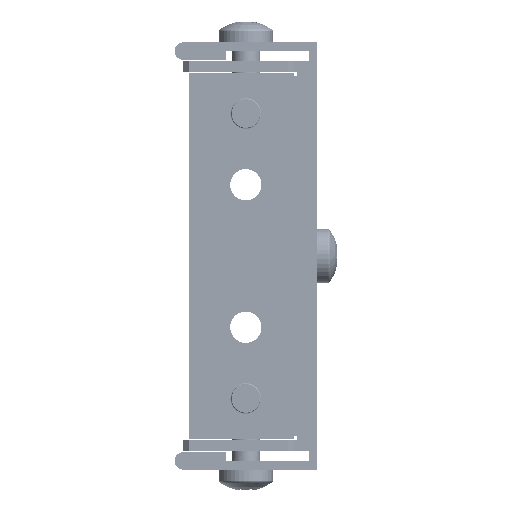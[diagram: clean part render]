
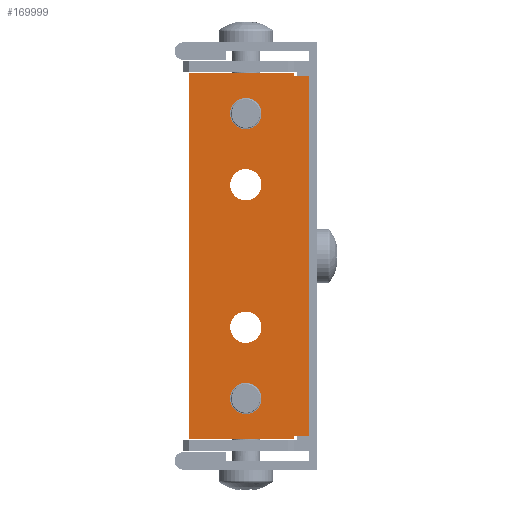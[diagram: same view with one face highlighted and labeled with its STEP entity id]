
A CAD part, front view. The second image highlights one B-rep face of the part: STEP entity #169999.
In plain terms, the highlighted planar face has unit normal (0, -1, 0).
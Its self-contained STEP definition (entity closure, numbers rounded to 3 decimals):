
#168963 = EDGE_CURVE('',#168964,#168966,#168968,.T.);
#168964 = VERTEX_POINT('',#168965);
#168965 = CARTESIAN_POINT('',(-354.1,-550.,-5.35));
#168966 = VERTEX_POINT('',#168967);
#168967 = CARTESIAN_POINT('',(-372.5,-550.,-5.35));
#168968 = LINE('',#168969,#168970);
#168969 = CARTESIAN_POINT('',(-354.1,-550.,-5.35));
#168970 = VECTOR('',#168971,1.);
#168971 = DIRECTION('',(-1.,0.,0.));
#169003 = EDGE_CURVE('',#169004,#169006,#169008,.T.);
#169004 = VERTEX_POINT('',#169005);
#169005 = CARTESIAN_POINT('',(-354.1,-550.,-69.15));
#169006 = VERTEX_POINT('',#169007);
#169007 = CARTESIAN_POINT('',(-354.1,-550.,-69.65));
#169008 = LINE('',#169009,#169010);
#169009 = CARTESIAN_POINT('',(-354.1,-550.,-69.15));
#169010 = VECTOR('',#169011,1.);
#169011 = DIRECTION('',(0.,0.,-1.));
#169043 = EDGE_CURVE('',#169006,#169044,#169046,.T.);
#169044 = VERTEX_POINT('',#169045);
#169045 = CARTESIAN_POINT('',(-372.5,-550.,-69.65));
#169046 = LINE('',#169047,#169048);
#169047 = CARTESIAN_POINT('',(-354.1,-550.,-69.65));
#169048 = VECTOR('',#169049,1.);
#169049 = DIRECTION('',(-1.,0.,0.));
#169081 = EDGE_CURVE('',#169044,#168966,#169082,.T.);
#169082 = LINE('',#169083,#169084);
#169083 = CARTESIAN_POINT('',(-372.5,-550.,-5.85));
#169084 = VECTOR('',#169085,1.);
#169085 = DIRECTION('',(0.,0.,1.));
#169097 = VERTEX_POINT('',#169098);
#169098 = CARTESIAN_POINT('',(-359.75,-550.,-12.5));
#169116 = VERTEX_POINT('',#169117);
#169117 = CARTESIAN_POINT('',(-365.25,-550.,-12.5));
#169123 = EDGE_CURVE('',#169116,#169097,#169124,.T.);
#169124 = CIRCLE('',#169125,2.75);
#169125 = AXIS2_PLACEMENT_3D('',#169126,#169127,#169128);
#169126 = CARTESIAN_POINT('',(-362.5,-550.,-12.5));
#169127 = DIRECTION('',(0.,1.,0.));
#169128 = DIRECTION('',(1.,0.,0.));
#169146 = EDGE_CURVE('',#169097,#169116,#169147,.T.);
#169147 = CIRCLE('',#169148,2.75);
#169148 = AXIS2_PLACEMENT_3D('',#169149,#169150,#169151);
#169149 = CARTESIAN_POINT('',(-362.5,-550.,-12.5));
#169150 = DIRECTION('',(0.,1.,0.));
#169151 = DIRECTION('',(1.,0.,0.));
#169163 = VERTEX_POINT('',#169164);
#169164 = CARTESIAN_POINT('',(-359.75,-550.,-50.));
#169182 = VERTEX_POINT('',#169183);
#169183 = CARTESIAN_POINT('',(-365.25,-550.,-50.));
#169189 = EDGE_CURVE('',#169182,#169163,#169190,.T.);
#169190 = CIRCLE('',#169191,2.75);
#169191 = AXIS2_PLACEMENT_3D('',#169192,#169193,#169194);
#169192 = CARTESIAN_POINT('',(-362.5,-550.,-50.));
#169193 = DIRECTION('',(0.,1.,0.));
#169194 = DIRECTION('',(-1.,0.,0.));
#169212 = EDGE_CURVE('',#169163,#169182,#169213,.T.);
#169213 = CIRCLE('',#169214,2.75);
#169214 = AXIS2_PLACEMENT_3D('',#169215,#169216,#169217);
#169215 = CARTESIAN_POINT('',(-362.5,-550.,-50.));
#169216 = DIRECTION('',(0.,1.,0.));
#169217 = DIRECTION('',(-1.,0.,0.));
#169229 = VERTEX_POINT('',#169230);
#169230 = CARTESIAN_POINT('',(-359.75,-550.,-62.5));
#169248 = VERTEX_POINT('',#169249);
#169249 = CARTESIAN_POINT('',(-365.25,-550.,-62.5));
#169255 = EDGE_CURVE('',#169248,#169229,#169256,.T.);
#169256 = CIRCLE('',#169257,2.75);
#169257 = AXIS2_PLACEMENT_3D('',#169258,#169259,#169260);
#169258 = CARTESIAN_POINT('',(-362.5,-550.,-62.5));
#169259 = DIRECTION('',(0.,1.,0.));
#169260 = DIRECTION('',(-1.,0.,0.));
#169278 = EDGE_CURVE('',#169229,#169248,#169279,.T.);
#169279 = CIRCLE('',#169280,2.75);
#169280 = AXIS2_PLACEMENT_3D('',#169281,#169282,#169283);
#169281 = CARTESIAN_POINT('',(-362.5,-550.,-62.5));
#169282 = DIRECTION('',(0.,1.,0.));
#169283 = DIRECTION('',(-1.,0.,0.));
#169295 = VERTEX_POINT('',#169296);
#169296 = CARTESIAN_POINT('',(-359.75,-550.,-25.));
#169314 = VERTEX_POINT('',#169315);
#169315 = CARTESIAN_POINT('',(-365.25,-550.,-25.));
#169321 = EDGE_CURVE('',#169314,#169295,#169322,.T.);
#169322 = CIRCLE('',#169323,2.75);
#169323 = AXIS2_PLACEMENT_3D('',#169324,#169325,#169326);
#169324 = CARTESIAN_POINT('',(-362.5,-550.,-25.));
#169325 = DIRECTION('',(0.,1.,0.));
#169326 = DIRECTION('',(1.,0.,0.));
#169344 = EDGE_CURVE('',#169295,#169314,#169345,.T.);
#169345 = CIRCLE('',#169346,2.75);
#169346 = AXIS2_PLACEMENT_3D('',#169347,#169348,#169349);
#169347 = CARTESIAN_POINT('',(-362.5,-550.,-25.));
#169348 = DIRECTION('',(0.,1.,0.));
#169349 = DIRECTION('',(1.,0.,0.));
#169360 = EDGE_CURVE('',#169361,#168964,#169363,.T.);
#169361 = VERTEX_POINT('',#169362);
#169362 = CARTESIAN_POINT('',(-354.1,-550.,-5.85));
#169363 = LINE('',#169364,#169365);
#169364 = CARTESIAN_POINT('',(-354.1,-550.,-5.85));
#169365 = VECTOR('',#169366,1.);
#169366 = DIRECTION('',(0.,0.,1.));
#169982 = VERTEX_POINT('',#169983);
#169983 = CARTESIAN_POINT('',(-351.5,-550.,-69.15));
#169989 = EDGE_CURVE('',#169004,#169982,#169990,.T.);
#169990 = LINE('',#169991,#169992);
#169991 = CARTESIAN_POINT('',(-351.5,-550.,-69.15));
#169992 = VECTOR('',#169993,1.);
#169993 = DIRECTION('',(1.,0.,0.));
#169999 = ADVANCED_FACE('',(#170000,#170004,#170008,#170012,#170016),
  #170038,.T.);
#170000 = FACE_BOUND('',#170001,.T.);
#170001 = EDGE_LOOP('',(#170002,#170003));
#170002 = ORIENTED_EDGE('',*,*,#169344,.T.);
#170003 = ORIENTED_EDGE('',*,*,#169321,.T.);
#170004 = FACE_BOUND('',#170005,.T.);
#170005 = EDGE_LOOP('',(#170006,#170007));
#170006 = ORIENTED_EDGE('',*,*,#169278,.T.);
#170007 = ORIENTED_EDGE('',*,*,#169255,.T.);
#170008 = FACE_BOUND('',#170009,.T.);
#170009 = EDGE_LOOP('',(#170010,#170011));
#170010 = ORIENTED_EDGE('',*,*,#169212,.T.);
#170011 = ORIENTED_EDGE('',*,*,#169189,.T.);
#170012 = FACE_BOUND('',#170013,.T.);
#170013 = EDGE_LOOP('',(#170014,#170015));
#170014 = ORIENTED_EDGE('',*,*,#169146,.T.);
#170015 = ORIENTED_EDGE('',*,*,#169123,.T.);
#170016 = FACE_BOUND('',#170017,.T.);
#170017 = EDGE_LOOP('',(#170018,#170019,#170020,#170021,#170022,#170030,
    #170036,#170037));
#170018 = ORIENTED_EDGE('',*,*,#169081,.F.);
#170019 = ORIENTED_EDGE('',*,*,#169043,.F.);
#170020 = ORIENTED_EDGE('',*,*,#169003,.F.);
#170021 = ORIENTED_EDGE('',*,*,#169989,.T.);
#170022 = ORIENTED_EDGE('',*,*,#170023,.T.);
#170023 = EDGE_CURVE('',#169982,#170024,#170026,.T.);
#170024 = VERTEX_POINT('',#170025);
#170025 = CARTESIAN_POINT('',(-351.5,-550.,-5.85));
#170026 = LINE('',#170027,#170028);
#170027 = CARTESIAN_POINT('',(-351.5,-550.,-37.5));
#170028 = VECTOR('',#170029,1.);
#170029 = DIRECTION('',(0.,0.,1.));
#170030 = ORIENTED_EDGE('',*,*,#170031,.F.);
#170031 = EDGE_CURVE('',#169361,#170024,#170032,.T.);
#170032 = LINE('',#170033,#170034);
#170033 = CARTESIAN_POINT('',(-351.5,-550.,-5.85));
#170034 = VECTOR('',#170035,1.);
#170035 = DIRECTION('',(1.,0.,0.));
#170036 = ORIENTED_EDGE('',*,*,#169360,.T.);
#170037 = ORIENTED_EDGE('',*,*,#168963,.T.);
#170038 = PLANE('',#170039);
#170039 = AXIS2_PLACEMENT_3D('',#170040,#170041,#170042);
#170040 = CARTESIAN_POINT('',(-351.5,-550.,-37.5));
#170041 = DIRECTION('',(0.,-1.,0.));
#170042 = DIRECTION('',(0.,0.,1.));
